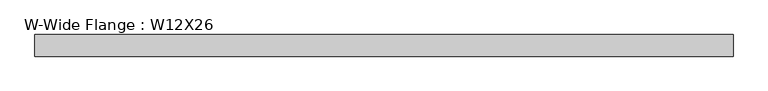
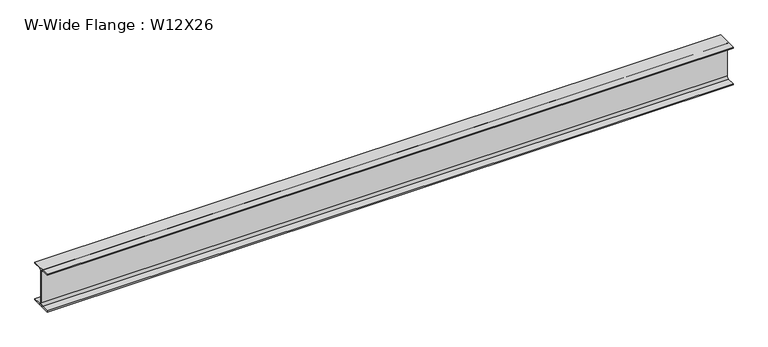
"""IFC4 building model written with IfcOpenShell, lengths in millimetres: beam geometry, W-Wide Flange : W12X26."""

from ifc_helpers import new_model, si_unit, point, frame, frame_2d, origin, place, context, project, spatial, polyline, circle_curve, trimmed, segment, composite_curve, outline, extrude, source, transform, mapped, element, save


def w_wide_flange_w12x26_7d68bc66(model_context):
    return source(origin(), model_context, "Body", "SweptSolid", [
        extrude(outline(composite_curve([segment(polyline([(82.423, -145.288), (82.423, -154.94), (-82.423, -154.94), (-82.423, -145.288), (-20.2565, -145.288)]), True, "CONTINUOUS"), segment(trimmed(circle_curve(frame_2d((-20.2565, -127.9525)), 17.3355), [point((-20.2565, -145.288))], [point((-2.921, -127.9525))], True, "CARTESIAN"), True, "CONTINUOUS"), segment(polyline([(-2.921, -127.9525), (-2.921, 127.9525)]), True, "CONTINUOUS"), segment(trimmed(circle_curve(frame_2d((-20.2565, 127.9525)), 17.3355), [point((-2.921, 127.9525))], [point((-20.2565, 145.288))], True, "CARTESIAN"), True, "CONTINUOUS"), segment(polyline([(-20.2565, 145.288), (-82.423, 145.288), (-82.423, 154.94), (82.423, 154.94), (82.423, 145.288), (20.2565, 145.288)]), True, "CONTINUOUS"), segment(trimmed(circle_curve(frame_2d((20.2565, 127.9525)), 17.3355), [point((20.2565, 145.288))], [point((2.921, 127.9525))], True, "CARTESIAN"), True, "CONTINUOUS"), segment(polyline([(2.921, 127.9525), (2.921, -127.9525)]), True, "CONTINUOUS"), segment(trimmed(circle_curve(frame_2d((20.2565, -127.9525)), 17.3355), [point((2.921, -127.9525))], [point((20.2565, -145.288))], True, "CARTESIAN"), True, "CONTINUOUS"), segment(polyline([(20.2565, -145.288), (82.423, -145.288)]), True, "CONTINUOUS")], self_intersect=False)), frame((-5129.4665, 0.0, 0.0), z_axis=(1.0, 0.0, 0.0), x_axis=(0.0, 1.0, 0.0)), (0.0, 0.0, 1.0), 5315.204),
    ])


if __name__ == "__main__":
    model = new_model("IFC4")
    model_context = context("Model", 3, world=origin())
    ifc_project = project(units=[si_unit("LENGTHUNIT", "METRE", prefix="MILLI")], contexts=[model_context])
    site = spatial("IfcSite", under=ifc_project)
    building = spatial("IfcBuilding", under=site)
    placement = place(None, origin())
    w_wide_flange_w12x26_shape = w_wide_flange_w12x26_7d68bc66(model_context)
    element("IfcBeam", 1, ObjectType="W-Wide Flange : W12X26", at=placement, inside=building, context=model_context, shape_type="MappedRepresentation", body=[
        mapped(w_wide_flange_w12x26_shape, transform((0.0, 0.0, 0.0), x_axis=(1.0, 0.0, 0.0), y_axis=(0.0, 1.0, 0.0), z_axis=(0.0, 0.0, 1.0))),
    ])
    save(model, "model.ifc")
